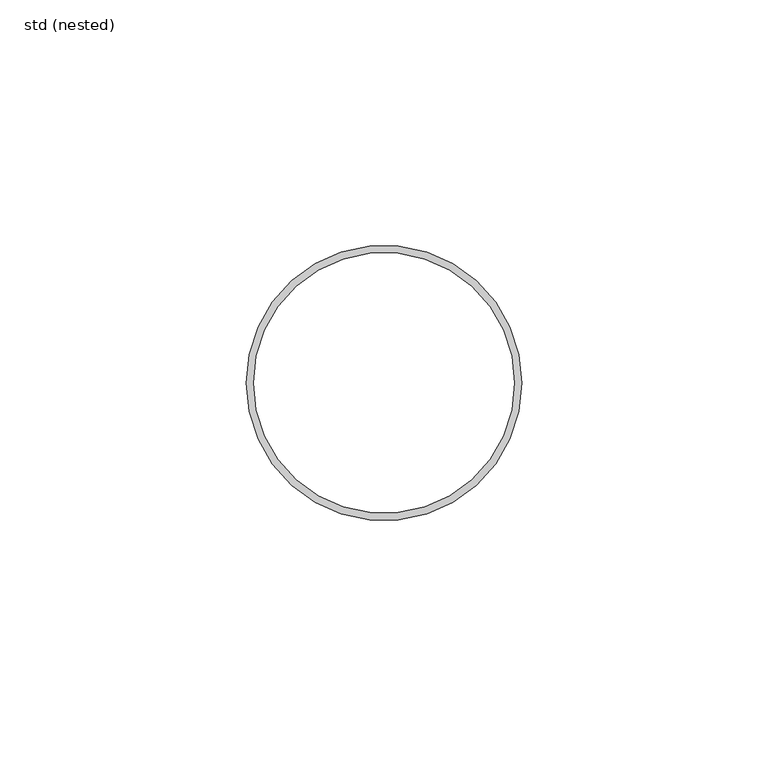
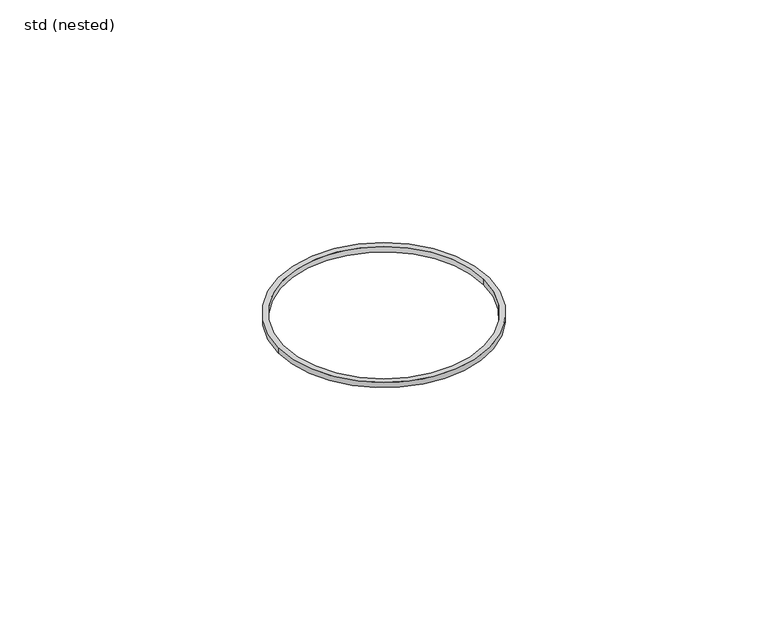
"""IFC4 building model written with IfcOpenShell, lengths in millimetres: pipe fitting geometry, ZZZ_do not use_PIF_GEN_WPB_GM-X (compound) pipe seal_ACO : std (nested)."""

from ifc_helpers import new_model, si_unit, point, origin, origin_with_axes, origin_2d, place, context, project, spatial, circle_curve, trimmed, segment, composite_curve, outline, extrude, source, transform, mapped, element, save


def std_nested_69f55aa1(model_context):
    return source(origin(), model_context, "Body", "SweptSolid", [
        extrude(outline(composite_curve([segment(trimmed(circle_curve(origin_2d(), 28.0), [point((28.0, 0.0))], [point((-28.0, 0.0))], False, "CARTESIAN"), True, "CONTINUOUS"), segment(trimmed(circle_curve(origin_2d(), 28.0), [point((-28.0, 0.0))], [point((28.0, 0.0))], False, "CARTESIAN"), True, "CONTINUOUS")], self_intersect=False), holes=[composite_curve([segment(trimmed(circle_curve(origin_2d(), 26.5), [point((26.5, 0.0))], [point((-26.5, 0.0))], True, "CARTESIAN"), True, "CONTINUOUS"), segment(trimmed(circle_curve(origin_2d(), 26.5), [point((-26.5, 0.0))], [point((26.5, 0.0))], True, "CARTESIAN"), True, "CONTINUOUS")], self_intersect=False)]), origin_with_axes(), (0.0, 0.0, 1.0), 1.5),
    ])


if __name__ == "__main__":
    model = new_model("IFC4")
    model_context = context("Model", 3, world=origin())
    ifc_project = project(units=[si_unit("LENGTHUNIT", "METRE", prefix="MILLI")], contexts=[model_context])
    site = spatial("IfcSite", under=ifc_project)
    building = spatial("IfcBuilding", under=site)
    placement = place(None, origin())
    std_nested_shape = std_nested_69f55aa1(model_context)
    element("IfcPipeFitting", 1, ObjectType="ZZZ_do not use_PIF_GEN_WPB_GM-X (compound) pipe seal_ACO : std (nested)", at=placement, inside=building, context=model_context, shape_type="MappedRepresentation", body=[
        mapped(std_nested_shape, transform((0.0, 0.0, 0.0), x_axis=(1.0, 0.0, 0.0), y_axis=(0.0, 1.0, 0.0), z_axis=(0.0, 0.0, 1.0))),
    ])
    save(model, "model.ifc")
